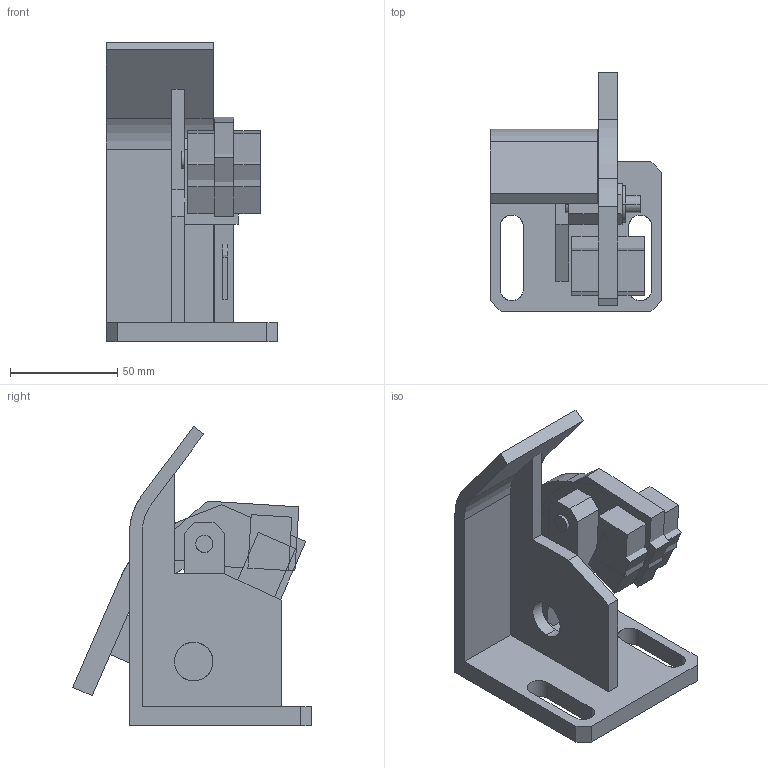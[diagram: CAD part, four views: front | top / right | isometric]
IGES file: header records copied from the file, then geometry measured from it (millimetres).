
Global section: file name: E:\UnigraphicsGraphicData\MISUMI_PRESS-PARTS\IGES\3d_pacoan-r100-m10_04926_r00.igs; native system: NX V5.0; preprocessor: UGS NX IGES V5.0; author: MISUMI; date: 20110105.162213; units: millimetre
Bounding box: 80 x 111.58 x 140 mm (x, y, z)
Surface area: 67399.9 mm2 (no closed solid volume)
Topology: 0 solids, 0 shells, 112 faces, 727 edges, 727 vertices
Faces by surface type: bspline 112
